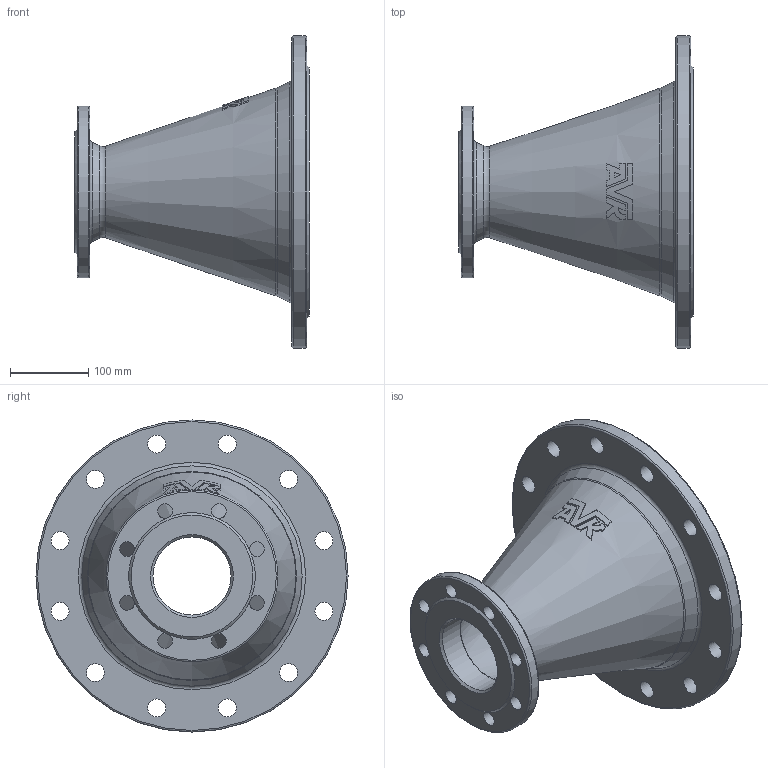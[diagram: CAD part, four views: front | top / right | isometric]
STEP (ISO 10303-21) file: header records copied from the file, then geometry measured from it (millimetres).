
FILE_DESCRIPTION (( 'STEP AP203' ), '1' );
FILE_NAME ('O_712_2210_DN250_DN100_0X_REV01.step', '2024-08-08T05:52:19', ( '' ), ( '' ), 'SwSTEP 2.0', 'SolidWorks 2022', '' );
FILE_SCHEMA (( 'CONFIG_CONTROL_DESIGN' ));
Length unit declared in the file: millimetre
Products named in the file (1): O_712_2210_DN250_DN100_0X_REV01
Bounding box: 300 x 400 x 400 mm (x, y, z)
Volume: 3233842 mm3; surface area: 574311.9 mm2
Topology: 1 solids, 1 shells, 97 faces, 269 edges, 174 vertices
Faces by surface type: plane 49, cylinder 26, cone 12, torus 10
Full cylindrical faces by diameter (mm): 19 x8, 23 x12, 100 x1, 220 x1, 250 x1, 400 x1
Entity records: 2942 total; most frequent: CARTESIAN_POINT 641, DIRECTION 479, ORIENTED_EDGE 404, AXIS2_PLACEMENT_3D 221, EDGE_CURVE 202, EDGE_LOOP 181, VERTEX_POINT 149, FACE_OUTER_BOUND 131
